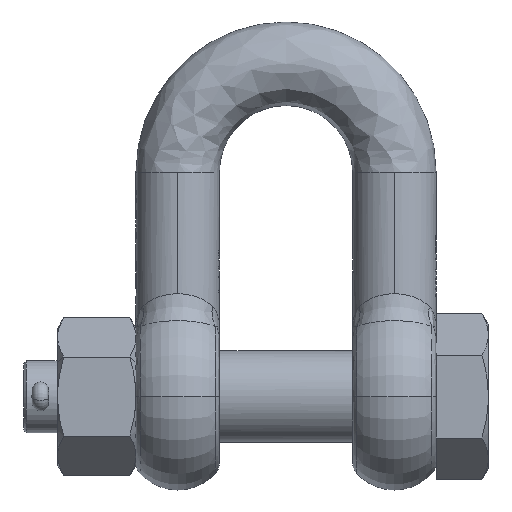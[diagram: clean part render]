
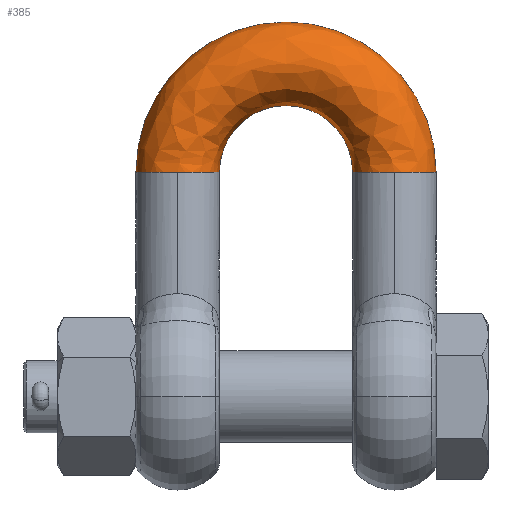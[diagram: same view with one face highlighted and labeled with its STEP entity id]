
A CAD part, top view. The second image highlights one B-rep face of the part: STEP entity #385.
In plain terms, the highlighted free-form (B-spline) face has degree [3, 3] with [4, 4] control points.
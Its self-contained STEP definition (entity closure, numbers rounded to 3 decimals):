
#385=ADVANCED_FACE('NONE',(#1377),#1378,.F.);
#1377=FACE_OUTER_BOUND('',#4184,.T.);
#1378=(B_SPLINE_SURFACE(3,3,((#4186,#4187,#4188,#4189),(#4190,#4191,#4192,#4193),(#4194,#4195,#4196,#4197),(#4198,#4199,#4200,#4201)),.UNSPECIFIED.,.F.,.F.,.F.)B_SPLINE_SURFACE_WITH_KNOTS((4,4),(4,4),(0.0,1.0),(0.0,1.0),.UNSPECIFIED.)RATIONAL_B_SPLINE_SURFACE(((1.0,0.333,0.333,1.0),(0.333,0.111,0.111,0.333),(0.333,0.111,0.111,0.333),(1.0,0.333,0.333,1.0)))BOUNDED_SURFACE()REPRESENTATION_ITEM('')GEOMETRIC_REPRESENTATION_ITEM()SURFACE());
#4184=EDGE_LOOP('',(#15451,#15452,#15453,#15454,#15455,#15456));
#4186=CARTESIAN_POINT('',(-25.5,86.0,0.));
#4187=CARTESIAN_POINT('',(-25.5,137.,0.));
#4188=CARTESIAN_POINT('',(25.5,137.,0.));
#4189=CARTESIAN_POINT('',(25.5,86.,0.));
#4190=CARTESIAN_POINT('',(-25.5,86.0,32.0));
#4191=CARTESIAN_POINT('',(-25.5,137.,32.0));
#4192=CARTESIAN_POINT('',(25.5,137.,32.0));
#4193=CARTESIAN_POINT('',(25.5,86.,32.0));
#4194=CARTESIAN_POINT('',(-57.5,86.0,32.0));
#4195=CARTESIAN_POINT('',(-57.5,201.,32.0));
#4196=CARTESIAN_POINT('',(57.5,201.,32.0));
#4197=CARTESIAN_POINT('',(57.5,86.,32.0));
#4198=CARTESIAN_POINT('',(-57.5,86.0,0.));
#4199=CARTESIAN_POINT('',(-57.5,201.,0.));
#4200=CARTESIAN_POINT('',(57.5,201.,0.));
#4201=CARTESIAN_POINT('',(57.5,86.,0.));
#15451=ORIENTED_EDGE('',*,*,#18454,.F.);
#15452=ORIENTED_EDGE('',*,*,#19131,.F.);
#15453=ORIENTED_EDGE('',*,*,#19215,.T.);
#15454=ORIENTED_EDGE('',*,*,#18367,.T.);
#15455=ORIENTED_EDGE('',*,*,#19129,.F.);
#15456=ORIENTED_EDGE('',*,*,#19025,.F.);
#18367=EDGE_CURVE('NONE',#20199,#20200,#20201,.T.);
#18454=EDGE_CURVE('NONE',#20371,#20373,#20374,.T.);
#19025=EDGE_CURVE('NONE',#20373,#21317,#21318,.T.);
#19129=EDGE_CURVE('NONE',#21317,#20200,#21521,.T.);
#19131=EDGE_CURVE('NONE',#21522,#20371,#21524,.T.);
#19215=EDGE_CURVE('NONE',#21522,#20199,#21638,.T.);
#20199=VERTEX_POINT('NONE',#23469);
#20200=VERTEX_POINT('NONE',#23470);
#20201=CIRCLE('',#23471,16.0);
#20371=VERTEX_POINT('NONE',#23932);
#20373=VERTEX_POINT('NONE',#23934);
#20374=CIRCLE('',#23935,16.0);
#21317=VERTEX_POINT('NONE',#27044);
#21318=CIRCLE('',#27045,16.0);
#21521=CIRCLE('',#27574,57.5);
#21522=VERTEX_POINT('NONE',#27575);
#21524=CIRCLE('',#27577,25.5);
#21638=CIRCLE('',#27849,16.0);
#23469=CARTESIAN_POINT('',(41.5,86.0,16.0));
#23470=CARTESIAN_POINT('',(57.5,86.0,0.));
#23471=AXIS2_PLACEMENT_3D('',#34935,#34936,#34937);
#23932=CARTESIAN_POINT('',(-25.5,86.0,0.));
#23934=CARTESIAN_POINT('',(-41.5,86.0,16.0));
#23935=AXIS2_PLACEMENT_3D('',#35042,#35043,#35044);
#27044=CARTESIAN_POINT('',(-57.5,86.0,0.));
#27045=AXIS2_PLACEMENT_3D('',#35617,#35618,#35619);
#27574=AXIS2_PLACEMENT_3D('',#35765,#35766,#35767);
#27575=CARTESIAN_POINT('',(25.5,86.0,0.));
#27577=AXIS2_PLACEMENT_3D('',#35771,#35772,#35773);
#27849=AXIS2_PLACEMENT_3D('',#35850,#35851,#35852);
#34935=CARTESIAN_POINT('',(41.5,86.0,0.0));
#34936=DIRECTION('',(0.0,1.0,0.0));
#34937=DIRECTION('',(1.0,0.0,0.));
#35042=CARTESIAN_POINT('',(-41.5,86.0,0.));
#35043=DIRECTION('',(0.0,-1.0,0.0));
#35044=DIRECTION('',(0.0,0.0,-1.0));
#35617=CARTESIAN_POINT('',(-41.5,86.0,0.));
#35618=DIRECTION('',(0.0,-1.0,0.0));
#35619=DIRECTION('',(0.0,0.0,-1.0));
#35765=CARTESIAN_POINT('',(0.0,86.0,0.));
#35766=DIRECTION('',(0.0,0.0,-1.0));
#35767=DIRECTION('',(-1.0,0.0,0.0));
#35771=CARTESIAN_POINT('',(0.0,86.0,0.));
#35772=DIRECTION('',(0.0,0.0,1.0));
#35773=DIRECTION('',(-1.0,0.0,0.0));
#35850=CARTESIAN_POINT('',(41.5,86.0,0.0));
#35851=DIRECTION('',(0.0,1.0,0.0));
#35852=DIRECTION('',(1.0,0.0,0.));
